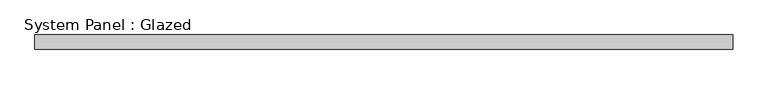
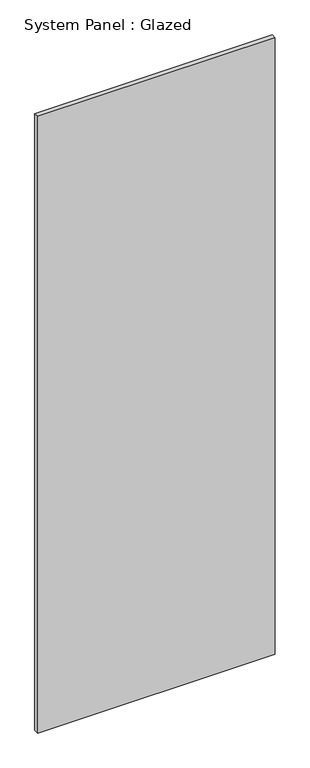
"""IFC4 building model written with IfcOpenShell, lengths in millimetres: plate geometry, System Panel : Glazed."""

from ifc_helpers import new_model, si_unit, origin, origin_with_axes, place, context, project, spatial, polyline, outline, extrude, source, transform, mapped, element, save


def system_panel_glazed_77398edd(model_context):
    return source(origin(), model_context, "Body", "SweptSolid", [
        extrude(outline(polyline([(601.6811567, 24.5), (-601.6811567, 24.5), (-601.6811567, 49.5), (601.6811567, 49.5), (601.6811567, 24.5)])), origin_with_axes(), (0.0, 0.0, 1.0), 3300.0),
    ])


if __name__ == "__main__":
    model = new_model("IFC4")
    model_context = context("Model", 3, world=origin())
    ifc_project = project(units=[si_unit("LENGTHUNIT", "METRE", prefix="MILLI")], contexts=[model_context])
    site = spatial("IfcSite", under=ifc_project)
    building = spatial("IfcBuilding", under=site)
    placement = place(None, origin())
    system_panel_glazed_shape = system_panel_glazed_77398edd(model_context)
    element("IfcPlate", 1, ObjectType="System Panel : Glazed", at=placement, inside=building, context=model_context, shape_type="MappedRepresentation", body=[
        mapped(system_panel_glazed_shape, transform((0.0, 0.0, 0.0), x_axis=(1.0, 0.0, 0.0), y_axis=(0.0, 1.0, 0.0), z_axis=(0.0, 0.0, 1.0))),
    ])
    save(model, "model.ifc")
